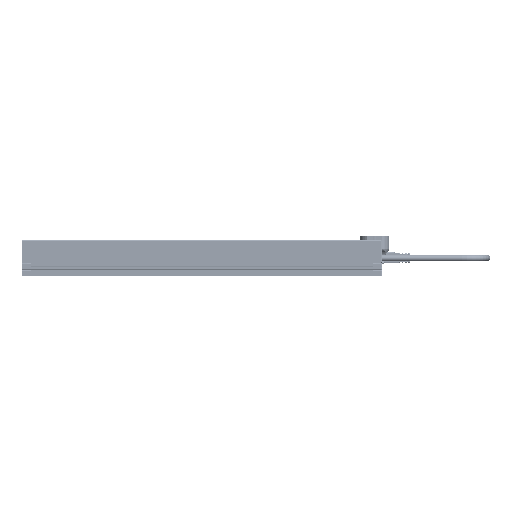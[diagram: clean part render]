
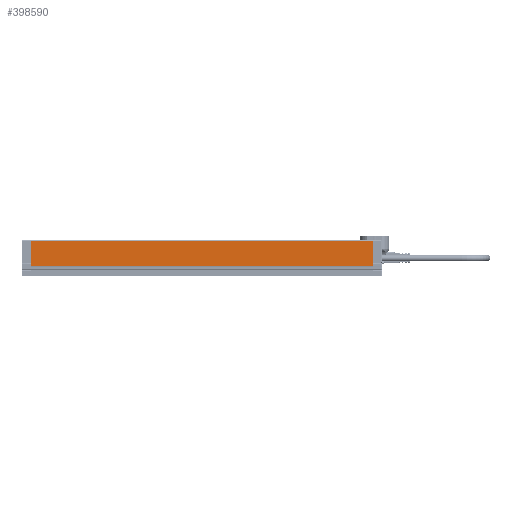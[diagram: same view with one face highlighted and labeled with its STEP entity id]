
A CAD part, left-side view. The second image highlights one B-rep face of the part: STEP entity #398590.
In plain terms, the highlighted planar face has unit normal (-1, 0, 0).
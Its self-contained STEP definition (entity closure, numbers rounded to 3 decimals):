
#37971=FACE_OUTER_BOUND('',#58458,.T.);
#58458=EDGE_LOOP('',(#338801,#338802,#338803,#338804,#338805,#338806,#338807,
#338808));
#75474=LINE('',#624424,#118087);
#75478=LINE('',#624441,#118091);
#76135=LINE('',#626398,#118748);
#76170=LINE('',#626509,#118783);
#76182=LINE('',#626549,#118795);
#76823=LINE('',#628458,#119436);
#100667=LINE('',#756148,#143280);
#100669=LINE('',#756151,#143282);
#118087=VECTOR('',#451756,10.);
#118091=VECTOR('',#451770,10.);
#118748=VECTOR('',#453479,10.);
#118783=VECTOR('',#453596,10.);
#118795=VECTOR('',#453626,10.);
#119436=VECTOR('',#455299,10.);
#143280=VECTOR('',#509743,10.);
#143282=VECTOR('',#509747,10.);
#156025=VERTEX_POINT('',#624421);
#156026=VERTEX_POINT('',#624423);
#156033=VERTEX_POINT('',#624439);
#156034=VERTEX_POINT('',#624440);
#156674=VERTEX_POINT('',#626507);
#156675=VERTEX_POINT('',#626508);
#156693=VERTEX_POINT('',#626546);
#156694=VERTEX_POINT('',#626548);
#197435=EDGE_CURVE('',#156026,#156025,#75474,.T.);
#197443=EDGE_CURVE('',#156033,#156034,#75478,.T.);
#198338=EDGE_CURVE('',#156034,#156026,#76135,.T.);
#198396=EDGE_CURVE('',#156674,#156675,#76170,.T.);
#198415=EDGE_CURVE('',#156693,#156694,#76182,.T.);
#199287=EDGE_CURVE('',#156675,#156693,#76823,.T.);
#233976=EDGE_CURVE('',#156674,#156033,#100667,.T.);
#233978=EDGE_CURVE('',#156694,#156025,#100669,.T.);
#338801=ORIENTED_EDGE('',*,*,#197443,.T.);
#338802=ORIENTED_EDGE('',*,*,#198338,.T.);
#338803=ORIENTED_EDGE('',*,*,#197435,.T.);
#338804=ORIENTED_EDGE('',*,*,#233978,.F.);
#338805=ORIENTED_EDGE('',*,*,#198415,.F.);
#338806=ORIENTED_EDGE('',*,*,#199287,.F.);
#338807=ORIENTED_EDGE('',*,*,#198396,.F.);
#338808=ORIENTED_EDGE('',*,*,#233976,.T.);
#359904=PLANE('',#422213);
#398590=ADVANCED_FACE('',(#37971),#359904,.T.);
#422213=AXIS2_PLACEMENT_3D('',#756150,#509745,#509746);
#451756=DIRECTION('',(0.,0.,-1.));
#451770=DIRECTION('',(0.,0.,-1.));
#453479=DIRECTION('',(0.,0.,-1.));
#453596=DIRECTION('',(0.,0.,-1.));
#453626=DIRECTION('',(0.,0.,-1.));
#455299=DIRECTION('',(0.,0.,-1.));
#509743=DIRECTION('',(0.,1.,0.));
#509745=DIRECTION('center_axis',(-1.,0.,0.));
#509746=DIRECTION('ref_axis',(0.,-1.,0.));
#509747=DIRECTION('',(0.,1.,0.));
#624421=CARTESIAN_POINT('',(0.,427.2,10.142));
#624423=CARTESIAN_POINT('',(0.,427.2,12.8));
#624424=CARTESIAN_POINT('',(0.,427.2,41.1));
#624439=CARTESIAN_POINT('',(0.,427.2,41.1));
#624440=CARTESIAN_POINT('',(0.,427.2,14.));
#624441=CARTESIAN_POINT('',(0.,427.2,41.1));
#626398=CARTESIAN_POINT('',(0.,427.2,41.1));
#626507=CARTESIAN_POINT('',(0.,10.5,41.1));
#626508=CARTESIAN_POINT('',(0.,10.5,14.));
#626509=CARTESIAN_POINT('',(0.,10.5,41.1));
#626546=CARTESIAN_POINT('',(0.,10.5,12.8));
#626548=CARTESIAN_POINT('',(0.,10.5,10.142));
#626549=CARTESIAN_POINT('',(0.,10.5,41.1));
#628458=CARTESIAN_POINT('',(0.,10.5,41.1));
#756148=CARTESIAN_POINT('',(0.,10.5,41.1));
#756150=CARTESIAN_POINT('Origin',(0.,10.5,
41.1));
#756151=CARTESIAN_POINT('',(0.,10.5,10.142));
